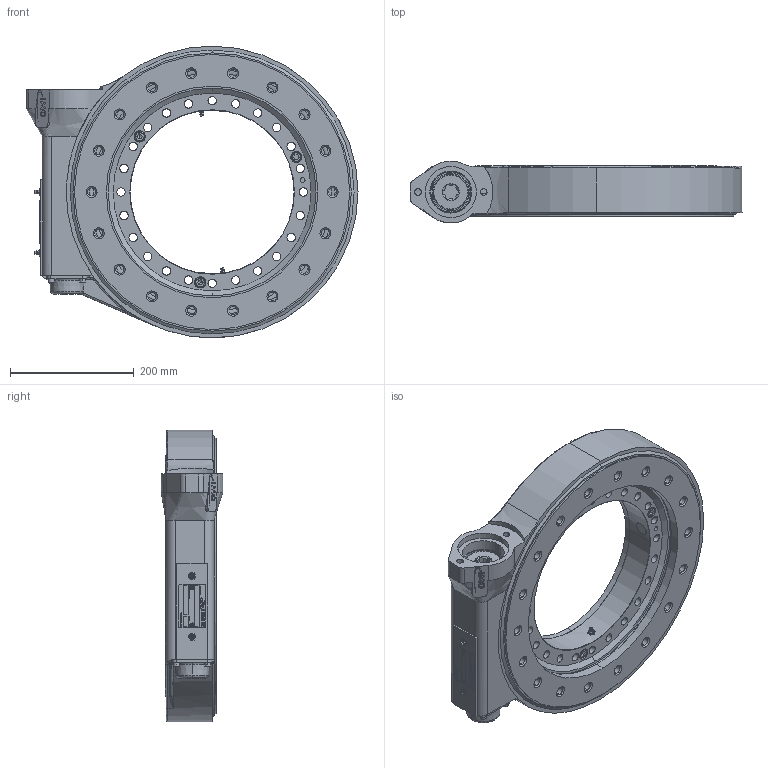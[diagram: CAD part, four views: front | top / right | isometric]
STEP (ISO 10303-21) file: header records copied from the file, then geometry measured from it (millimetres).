
FILE_DESCRIPTION (( 'STEP AP214' ), '1' );
FILE_NAME ('WD-LA 0343-3-06371_C - without motor.STEP', '2012-04-26T10:51:56', ( '' ), ( '' ), 'SwSTEP 2.0', 'SolidWorks 2011', '' );
FILE_SCHEMA (( 'AUTOMOTIVE_DESIGN' ));
Length unit declared in the file: millimetre
Products named in the file (1): WD-LA 0343-3-06371_C - without motor
Bounding box: 536.89 x 99.85 x 471.79 mm (x, y, z)
Surface area: 676318.2 mm2 (no closed solid volume)
Topology: 0 solids, 34 shells, 570 faces, 2228 edges, 1729 vertices
Faces by surface type: cylinder 224, plane 194, cone 83, torus 50, bspline 19
Entity records: 35124 total; most frequent: CARTESIAN_POINT 10006, ORIENTED_EDGE 3809, DIRECTION 3677, EDGE_CURVE 2223, VERTEX_POINT 1729, AXIS2_PLACEMENT_3D 1299, VECTOR 1079, LINE 1079
